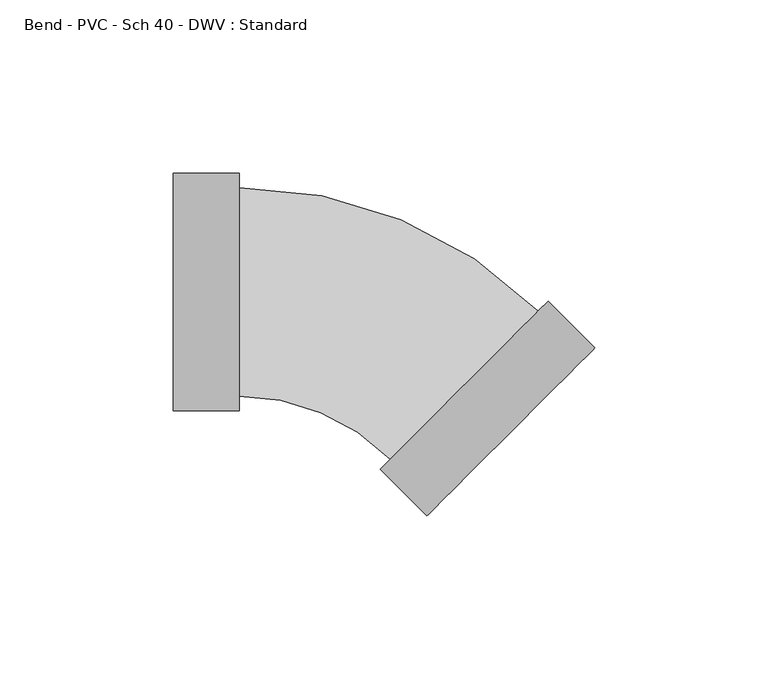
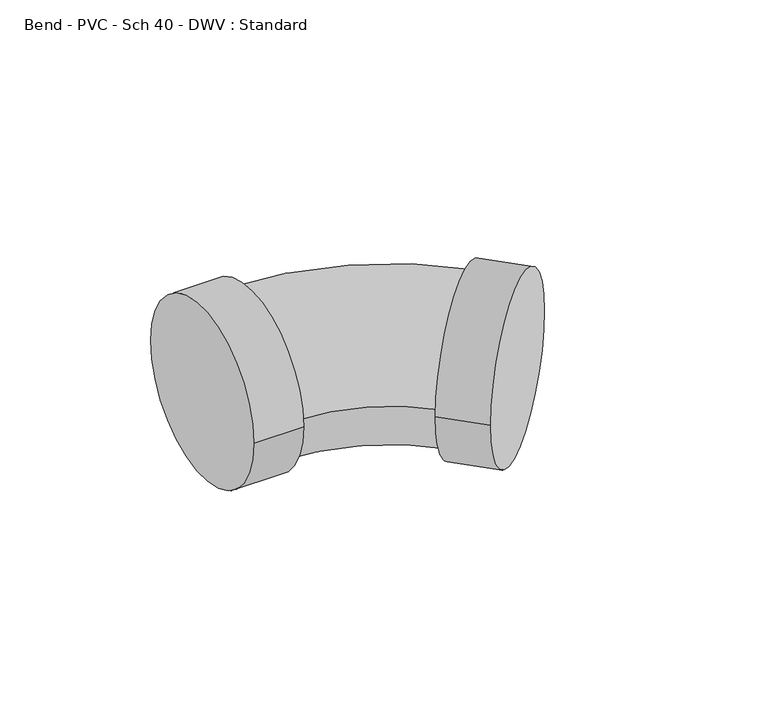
"""IFC4 building model written with IfcOpenShell, lengths in millimetres: pipe fitting geometry, Bend - PVC - Sch 40 - DWV : Standard."""

from ifc_helpers import new_model, si_unit, point, frame, origin, place, context, project, spatial, circle_curve, ellipse_curve, trimmed, source, transform, mapped, element, save
from ifc_brep_helpers import plane_surface, cylinder_surface, revolved_surface, advanced_brep


def bend_pvc_sch_40_dwv_standard_f64d1520(model_context):
    return source(origin(), model_context, "Body", "AdvancedBrep", [
        advanced_brep(
        [(-57.15, 34.3154, 0.0), (-57.15, -34.3154, 0.0), (-38.1, 34.3154, 0.0), (-38.1, -34.3154, 0.0), (-38.1, 30.1625, 0.0), (-38.1, -30.1625, 0.0), (5.6126601, -48.2688766, 0.0), (48.2688766, -5.6126601, 0.0), (51.2054204, -2.6761163, 0.0), (2.6761163, -51.2054204, 0.0), (64.6758046, -16.1465005, 0.0), (16.1465005, -64.6758046, 0.0)],
        [
            (0, 1, circle_curve(frame((-57.15, 0.0, 0.0), z_axis=(-1.0, 0.0, 0.0), x_axis=(0.0, -1.0, 0.0)), 34.3154)),
            (1, 0, circle_curve(frame((-57.15, 0.0, 0.0), z_axis=(-1.0, 0.0, 0.0), x_axis=(0.0, -1.0, 0.0)), 34.3154)),
            (2, 3, circle_curve(frame((-38.1, 0.0, 0.0), z_axis=(1.0, 0.0, 0.0), x_axis=(0.0, -1.0, 0.0)), 34.3154)),
            (3, 2, circle_curve(frame((-38.1, 0.0, 0.0), z_axis=(1.0, 0.0, 0.0), x_axis=(0.0, -1.0, 0.0)), 34.3154)),
            (4, 5, circle_curve(frame((-38.1, 0.0, 0.0), z_axis=(-1.0, 0.0, 0.0), x_axis=(0.0, -1.0, 0.0)), 30.1625)),
            (5, 4, circle_curve(frame((-38.1, 0.0, 0.0), z_axis=(-1.0, 0.0, 0.0), x_axis=(0.0, -1.0, 0.0)), 30.1625)),
            (1, 3),
            (2, 0),
            (6, 7, circle_curve(frame((26.9407684, -26.9407684, 0.0), z_axis=(-0.7071067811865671, 0.7071067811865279, 0.0), x_axis=(-0.7071067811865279, -0.7071067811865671, 0.0)), 30.1625)),
            (7, 4, circle_curve(frame((-38.1, -91.9815367, 0.0), z_axis=(0.0, 0.0, 1.0), x_axis=(0.0, 1.0, 0.0)), 122.1440367)),
            (5, 6, circle_curve(frame((-38.1, -91.9815367, 0.0), z_axis=(0.0, 0.0, -1.0), x_axis=(0.0, 1.0, 0.0)), 61.8190367)),
            (7, 6, circle_curve(frame((26.9407684, -26.9407684, 0.0), z_axis=(-0.7071067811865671, 0.7071067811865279, 0.0), x_axis=(-0.7071067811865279, -0.7071067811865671, 0.0)), 30.1625)),
            (8, 9, circle_curve(frame((26.9407684, -26.9407684, 0.0), z_axis=(-0.7071067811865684, 0.7071067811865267, 0.0), x_axis=(-0.7071067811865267, -0.7071067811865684, 0.0)), 34.3154)),
            (9, 8, circle_curve(frame((26.9407684, -26.9407684, 0.0), z_axis=(-0.7071067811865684, 0.7071067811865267, 0.0), x_axis=(-0.7071067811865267, -0.7071067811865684, 0.0)), 34.3154)),
            (10, 11, circle_curve(frame((40.4111525, -40.4111525, 0.0), z_axis=(0.7071067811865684, -0.7071067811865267, 0.0), x_axis=(-0.7071067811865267, -0.7071067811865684, 0.0)), 34.3154)),
            (11, 10, circle_curve(frame((40.4111525, -40.4111525, 0.0), z_axis=(0.7071067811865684, -0.7071067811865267, 0.0), x_axis=(-0.7071067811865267, -0.7071067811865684, 0.0)), 34.3154)),
            (9, 11),
            (10, 8),
        ],
        [
            plane_surface(frame((-57.15, 0.0, 0.0), z_axis=(-1.0, 0.0, 0.0), x_axis=(0.0, 0.0, 1.0))),
            plane_surface(frame((-38.1, 0.0, 0.0), z_axis=(1.0, 0.0, 0.0), x_axis=(0.0, 0.0, 1.0))),
            cylinder_surface(frame((-57.15, 0.0, 0.0), z_axis=(-1.0, 0.0, 0.0), x_axis=(0.0, -1.0, 0.0)), 34.3154),
            revolved_surface(trimmed(ellipse_curve(frame((-38.1, 0.0, 0.0), z_axis=(1.0, 0.0, 0.0), x_axis=(0.0, -1.0, 0.0)), 30.1625, 30.1625), [point((-38.1, 30.1625, 0.0))], [point((-38.1, -30.1625, 0.0))], True, "CARTESIAN"), (-38.1, -91.9815367, 0.0), (0.0, 0.0, 1.0)),
            revolved_surface(trimmed(ellipse_curve(frame((-38.1, 0.0, 0.0), z_axis=(1.0, 0.0, 0.0), x_axis=(0.0, -1.0, 0.0)), 30.1625, 30.1625), [point((-38.1, -30.1625, 0.0))], [point((-38.1, 30.1625, 0.0))], True, "CARTESIAN"), (-38.1, -91.9815367, 0.0), (0.0, 0.0, 1.0)),
            plane_surface(frame((26.9407684, -26.9407684, 0.0), z_axis=(-0.7071067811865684, 0.7071067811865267, 0.0), x_axis=(0.0, 0.0, 1.0))),
            plane_surface(frame((40.4111525, -40.4111525, 0.0), z_axis=(0.7071067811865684, -0.7071067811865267, 0.0), x_axis=(0.0, 0.0, 1.0))),
            cylinder_surface(frame((26.9407684, -26.9407684, 0.0), z_axis=(-0.7071067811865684, 0.7071067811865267, 0.0), x_axis=(-0.7071067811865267, -0.7071067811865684, 0.0)), 34.3154),
        ],
        [
            (0, [[1, 2]]),
            (1, [[3, 4], [5, 6]]),
            (2, [[7, -3, 8, -2]]),
            (2, [[-8, -4, -7, -1]]),
            (3, [[9, 10, -6, 11]]),
            (4, [[-5, -10, 12, -11]]),
            (5, [[13, 14], [-12, -9]]),
            (6, [[15, 16]]),
            (7, [[17, -15, 18, -14]]),
            (7, [[-18, -16, -17, -13]]),
        ],
    ),
    ])


if __name__ == "__main__":
    model = new_model("IFC4")
    model_context = context("Model", 3, world=origin())
    ifc_project = project(units=[si_unit("LENGTHUNIT", "METRE", prefix="MILLI")], contexts=[model_context])
    site = spatial("IfcSite", under=ifc_project)
    building = spatial("IfcBuilding", under=site)
    placement = place(None, origin())
    bend_pvc_sch_40_dwv_standard_shape = bend_pvc_sch_40_dwv_standard_f64d1520(model_context)
    element("IfcPipeFitting", 1, ObjectType="Bend - PVC - Sch 40 - DWV : Standard", at=placement, inside=building, context=model_context, shape_type="MappedRepresentation", body=[
        mapped(bend_pvc_sch_40_dwv_standard_shape, transform((0.0, 0.0, 0.0), x_axis=(1.0, 0.0, 0.0), y_axis=(0.0, 1.0, 0.0), z_axis=(0.0, 0.0, 1.0))),
    ])
    save(model, "model.ifc")
